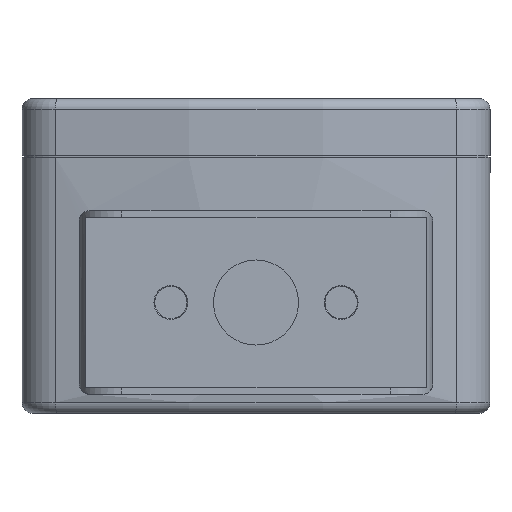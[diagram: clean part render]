
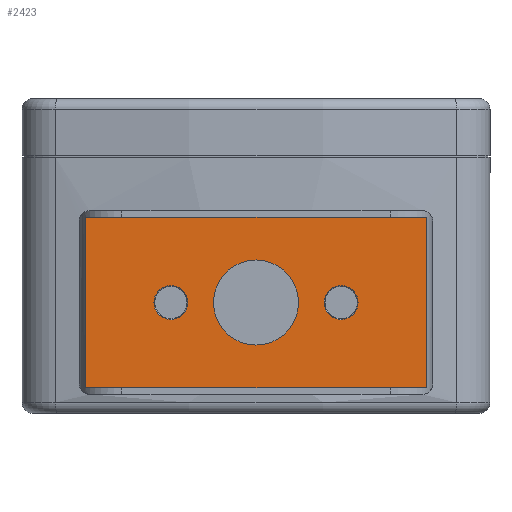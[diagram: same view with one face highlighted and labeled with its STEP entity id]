
A CAD part, front view. The second image highlights one B-rep face of the part: STEP entity #2423.
In plain terms, the highlighted planar face has unit normal (0, -1, 0).
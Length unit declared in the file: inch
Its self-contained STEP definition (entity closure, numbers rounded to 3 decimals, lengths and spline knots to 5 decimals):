
#2096=CARTESIAN_POINT('',(1.07804,-41.29352,-15.108));
#2097=VERTEX_POINT('',#2096);
#2104=CARTESIAN_POINT('',(3.07804,-41.29352,-15.108));
#2105=VERTEX_POINT('',#2104);
#2106=CARTESIAN_POINT('',(3.07804,-41.29352,-15.108));
#2107=DIRECTION('',(-1.0,0.0,0.0));
#2108=VECTOR('',#2107,2.);
#2109=LINE('',#2106,#2108);
#2110=EDGE_CURVE('',#2105,#2097,#2109,.T.);
#2255=CARTESIAN_POINT('',(2.32804,-41.29352,-15.608));
#2256=VERTEX_POINT('',#2255);
#2257=CARTESIAN_POINT('',(2.07804,-41.29352,-15.608));
#2258=DIRECTION('',(0.0,1.0,0.0));
#2259=DIRECTION('',(1.0,0.0,0.0));
#2260=AXIS2_PLACEMENT_3D('',#2257,#2258,#2259);
#2261=CIRCLE('',#2260,0.25);
#2262=EDGE_CURVE('',#2256,#2256,#2261,.T.);
#2275=CARTESIAN_POINT('',(2.57804,-41.29352,-15.708));
#2276=VERTEX_POINT('',#2275);
#2277=CARTESIAN_POINT('',(2.57804,-41.29352,-15.608));
#2278=DIRECTION('',(0.0,1.0,0.0));
#2279=DIRECTION('',(-1.0,0.0,0.0));
#2280=AXIS2_PLACEMENT_3D('',#2277,#2278,#2279);
#2281=CIRCLE('',#2280,0.1);
#2282=EDGE_CURVE('',#2276,#2276,#2281,.T.);
#2295=CARTESIAN_POINT('',(1.57804,-41.29352,-15.708));
#2296=VERTEX_POINT('',#2295);
#2297=CARTESIAN_POINT('',(1.57804,-41.29352,-15.608));
#2298=DIRECTION('',(0.0,1.0,0.0));
#2299=DIRECTION('',(-1.0,0.0,0.0));
#2300=AXIS2_PLACEMENT_3D('',#2297,#2298,#2299);
#2301=CIRCLE('',#2300,0.1);
#2302=EDGE_CURVE('',#2296,#2296,#2301,.T.);
#2322=CARTESIAN_POINT('',(3.07804,-41.29352,-16.108));
#2323=VERTEX_POINT('',#2322);
#2330=CARTESIAN_POINT('',(1.07804,-41.29352,-16.108));
#2331=VERTEX_POINT('',#2330);
#2332=CARTESIAN_POINT('',(1.07804,-41.29352,-16.108));
#2333=DIRECTION('',(1.0,0.0,0.0));
#2334=VECTOR('',#2333,2.);
#2335=LINE('',#2332,#2334);
#2336=EDGE_CURVE('',#2331,#2323,#2335,.T.);
#2376=CARTESIAN_POINT('',(1.07804,-41.29352,-16.108));
#2377=DIRECTION('',(0.0,0.0,1.0));
#2378=VECTOR('',#2377,1.);
#2379=LINE('',#2376,#2378);
#2380=EDGE_CURVE('',#2331,#2097,#2379,.T.);
#2393=CARTESIAN_POINT('',(3.07804,-41.29352,-16.108));
#2394=DIRECTION('',(0.0,0.0,1.0));
#2395=VECTOR('',#2394,1.);
#2396=LINE('',#2393,#2395);
#2397=EDGE_CURVE('',#2323,#2105,#2396,.T.);
#2403=CARTESIAN_POINT('',(2.57804,-41.29352,-15.593));
#2404=DIRECTION('',(0.0,-1.0,0.0));
#2405=DIRECTION('',(1.0,0.0,0.0));
#2406=AXIS2_PLACEMENT_3D('',#2403,#2404,#2405);
#2407=PLANE('',#2406);
#2408=ORIENTED_EDGE('',*,*,#2380,.F.);
#2409=ORIENTED_EDGE('',*,*,#2336,.T.);
#2410=ORIENTED_EDGE('',*,*,#2397,.T.);
#2411=ORIENTED_EDGE('',*,*,#2110,.T.);
#2412=EDGE_LOOP('',(#2408,#2409,#2410,#2411));
#2413=FACE_OUTER_BOUND('',#2412,.T.);
#2414=ORIENTED_EDGE('',*,*,#2282,.T.);
#2415=EDGE_LOOP('',(#2414));
#2416=FACE_BOUND('',#2415,.T.);
#2417=ORIENTED_EDGE('',*,*,#2302,.T.);
#2418=EDGE_LOOP('',(#2417));
#2419=FACE_BOUND('',#2418,.T.);
#2420=ORIENTED_EDGE('',*,*,#2262,.T.);
#2421=EDGE_LOOP('',(#2420));
#2422=FACE_BOUND('',#2421,.T.);
#2423=ADVANCED_FACE('',(#2413,#2416,#2419,#2422),#2407,.T.);
